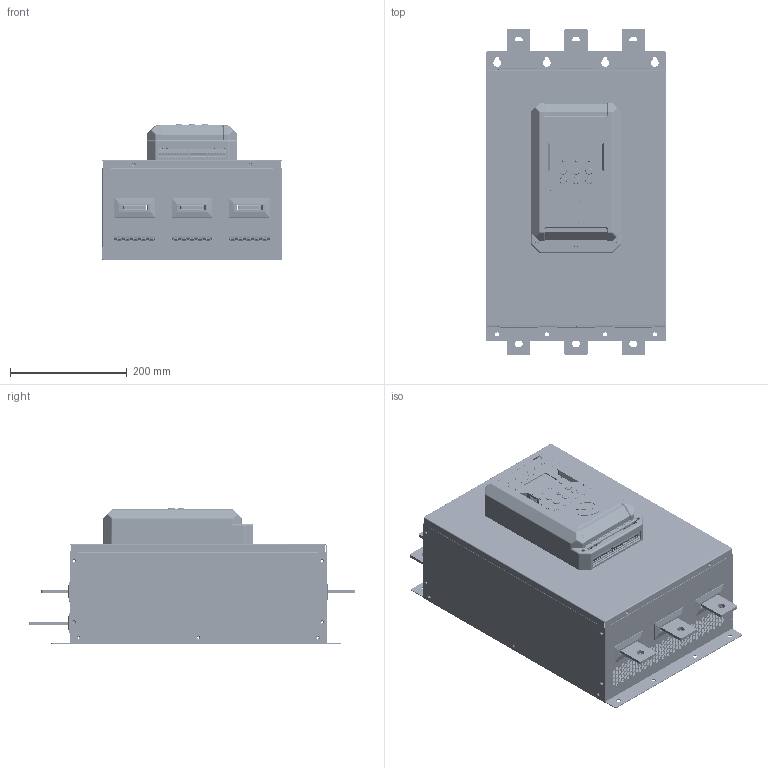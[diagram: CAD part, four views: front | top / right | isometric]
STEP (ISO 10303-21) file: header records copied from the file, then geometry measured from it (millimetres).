
FILE_DESCRIPTION (( 'STEP AP203' ), '1' );
FILE_NAME ('Óñòðîéñòâî ïëàâíîãî ïóñêà _ SSIP-280_560-04.STEP', '2025-03-17T09:10:39', ( '' ), ( '' ), 'SwSTEP 2.0', 'SolidWorks 2021', '' );
FILE_SCHEMA (( 'CONFIG_CONTROL_DESIGN' ));
Length unit declared in the file: millimetre
Products named in the file (65): Äèñïëåé LM6029ACW ñ êîííåêòîðîì 16P; Îñíîâà ïëàòû óïðàâëåíèÿ R7; ﾄ湜 R7C-D; 扱闀罻 12x12x10; Òðàíçèñòîð ñ ðàäèàòîðîì TO-3P; Øàéáà ïëîñêàÿ DIN 125 (A)_Œ3; Êîííåêòîð XH2.54_2A; Äèñïëåé LM6029ACW; Ëèöåâàÿ ïàíåëü R7C-B; Ëèöåâàÿ ïàíåëü 8ZR.314.363; Êëàâèàòóðà ïàíåëè óïðàâëåíèÿ R7C-S_SSIP; Ñòåíêà çàäíÿÿ 8ZR.024.363; Êîííåêòîð PLS (DS1021)_16P; Äèîäíûé ìîñò GBU816; Óçåë óïðàâëåíèÿ R7C_SSIP; Èçîëÿòîð øèííûé; 嵙縺 8ZR.580.366 RST; Èçîëÿòîð 8ZR.750.211; Çàãëóøêà R7BÀ-XA; MA2.5-H5.08_12P; Ëàìïà ñâåòîäèîäíàÿ_Šà á­ ï; MA2.5-H5.08_10P; Ôàëüøïàíåëü R7C-Ð_SSIP; MA2.5-H5.08 ﾁ; MB2.5-VC5.08 ﾏ; Ñåðäå÷íèê äðîññåëÿ; Ðàäèàòîð òðàíçèñòîðà SRX-2316-30 (Ø23Ã16Â30); Êîííåêòîð PLS (DS1021)_4P; 扻豵鵨 R7B-E630; Ñòåíêà ëåâàÿ 8ZR.050.369; MA2.5-H5.08 ﾖ; Ïëàòà óïðàâëåíèÿ R7; 秮鳧賥嚦闉 TO-3P; 署赅 8ZR.050.367; Êîííåêòîð RJ45 HY52A-8; Êîííåêòîð VH3.96_2A; Êàòóøêà äðîññåëÿ; Êîííåêòîð VH3.96_5A; Ëàìïà ñâåòîäèîäíàÿ_‡¥«¥­ ï; Ñòåíêà ïðàâàÿ 8ZR.050.370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
Assembly tree (137 placements, depth 6):
  Óñòðîéñòâî ïëàâíîãî ïóñêà _ SSIP-280_560-04
    扻豵鵨 R7B-E630
      Ñòåíêà çàäíÿÿ 8ZR.024.363
      Ñòåíêà ëåâàÿ 8ZR.050.369
      Ñòåíêà ïðàâàÿ 8ZR.050.370
      署赅 8ZR.050.367
      Äíèùå 8ZR.050.368
      Ëèöåâàÿ ïàíåëü 8ZR.314.363
    Èçîëÿòîð øèííûé  x9
    Óçåë óïðàâëåíèÿ R7C_SSIP
      Ëèöåâàÿ ïàíåëü R7C-B
      Ïëàòà óïðàâëåíèÿ R7
        Îñíîâà ïëàòû óïðàâëåíèÿ R7
        Êîííåêòîð VH3.96_5A  x3
        Êîííåêòîð XH2.54_4A
        Êîííåêòîð XH2.54_2A  x5
        Êîííåêòîð VH3.96_2A  x4
        MB2.5-VC5.08_10P
          MB2.5-VC5.08 ﾖ  x8
          MB2.5-VC5.08 ﾏ
          MB2.5-VC5.08 ﾋ
        MB2.5-VC5.08_12P
          MB2.5-VC5.08 ﾖ  x10
          MB2.5-VC5.08 ﾏ
          MB2.5-VC5.08 ﾋ
        ﾒ瀨瑣ⅱ ZR-022T2  x3
        ﾒ瀨瑣ⅱ 055T4
        Êîííåêòîð RJ45 HY52A-8
        Ñèëîâîå ðåëå HF46F_24-HS  x2
        Ñèëîâîå ðåëå 892-1
        Òðàíçèñòîð ñ ðàäèàòîðîì TO-3P
          秮鳧賥嚦闉 TO-3P
          Ðàäèàòîð òðàíçèñòîðà SRX-2316-30 (Ø23Ã16Â30)
          Âèíò DIN 7985 PH_Œ3å10
          Øàéáà ïëîñêàÿ DIN 125 (A)_Œ3
          Øàéáà ïðóæèííàÿ DIN 127 (A)_Œ3
        Êîíäåíñàòîð ýëåêòðîëèòè÷åñêèé Ô10 H20 k5 _ 470ìêô 35Â  x3
        Êîíäåíñàòîð ýëåêòðîëèòè÷åñêèé Ô12.5 H25 k5 _ 1000ìêô 35Â  x2
        Äðîññåëü UTNÐ
          Ñåðäå÷íèê äðîññåëÿ
          Êàòóøêà äðîññåëÿ
        Äèîäíûé ìîñò GBU816
        轉謶嚦闉 10D-15
        MA2.5-H5.08_10P
          MA2.5-H5.08 ﾁ  x2
          MA2.5-H5.08 ﾖ  x8
        MA2.5-H5.08_12P
          MA2.5-H5.08 ﾁ  x2
          MA2.5-H5.08 ﾖ  x10
        Êîííåêòîð PLS (DS1021)_4P
        Êîííåêòîð TJC2_1A
        Êîíäåíñàòîð ýëåêòðîëèòè÷åñêèé Ô22.3 H32 k10 _ 22ìêô 400Â  x2
      Èçîëÿòîð 8ZR.750.211
      Ïàíåëü óïðàâëåíèÿ_SSIP-KP
        Êðûøêà ïàíåëè óïðàâëåíèÿ R7C-C
        Êëàâèàòóðà ïàíåëè óïðàâëåíèÿ R7C-S_SSIP
        Ôàëüøïàíåëü R7C-Ð_SSIP
        Ïëàòà ïàíåëè óïïðàâëåíèÿ R7BC-PFC
          Îñíîâà ïëàòû ïàíåëè óïðàâëåíèÿ
          扱闀罻 12x12x10  x6
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Bounding box: 310 x 560 x 231.6 mm (x, y, z)
Volume: 1596153.2 mm3; surface area: 1827076.8 mm2
Topology: 133 solids, 133 shells, 14266 faces, 38012 edges, 24758 vertices
Faces by surface type: plane 10567, cylinder 2067, bspline 1456, cone 144, sphere 28, torus 4
Entity records: 315405 total; most frequent: CARTESIAN_POINT 106314, ORIENTED_EDGE 43580, DIRECTION 36724, EDGE_CURVE 21790, VECTOR 16620, LINE 16620, VERTEX_POINT 14279, AXIS2_PLACEMENT_3D 10052
